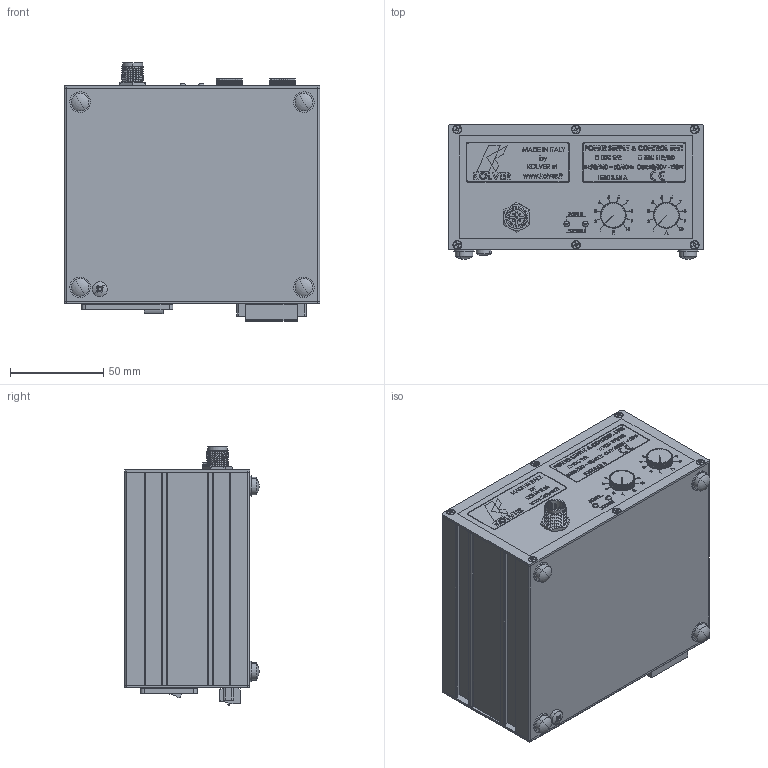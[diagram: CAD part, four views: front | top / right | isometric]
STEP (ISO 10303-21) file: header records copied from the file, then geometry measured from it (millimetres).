
FILE_DESCRIPTION (( 'STEP AP214' ), '1' );
FILE_NAME ('Edu 1FR_SG.STEP', '2014-04-16T12:37:27', ( 'davide' ), ( '' ), 'SwSTEP 2.0', 'SolidWorks 2013', '' );
FILE_SCHEMA (( 'AUTOMOTIVE_DESIGN' ));
Length unit declared in the file: millimetre
Products named in the file (1): Edu 1FR_SG
Bounding box: 137 x 72 x 138.4 mm (x, y, z)
Volume: 152735.2 mm3; surface area: 160522.2 mm2
Topology: 29 solids, 29 shells, 4927 faces, 12519 edges, 7951 vertices
Faces by surface type: plane 2364, cylinder 1206, bspline 719, cone 578, torus 56, sphere 4
Entity records: 242029 total; most frequent: CARTESIAN_POINT 72220, ORIENTED_EDGE 24976, DIRECTION 22012, EDGE_CURVE 12488, LINE 8044, VECTOR 8044, VERTEX_POINT 7949, AXIS2_PLACEMENT_3D 6984
